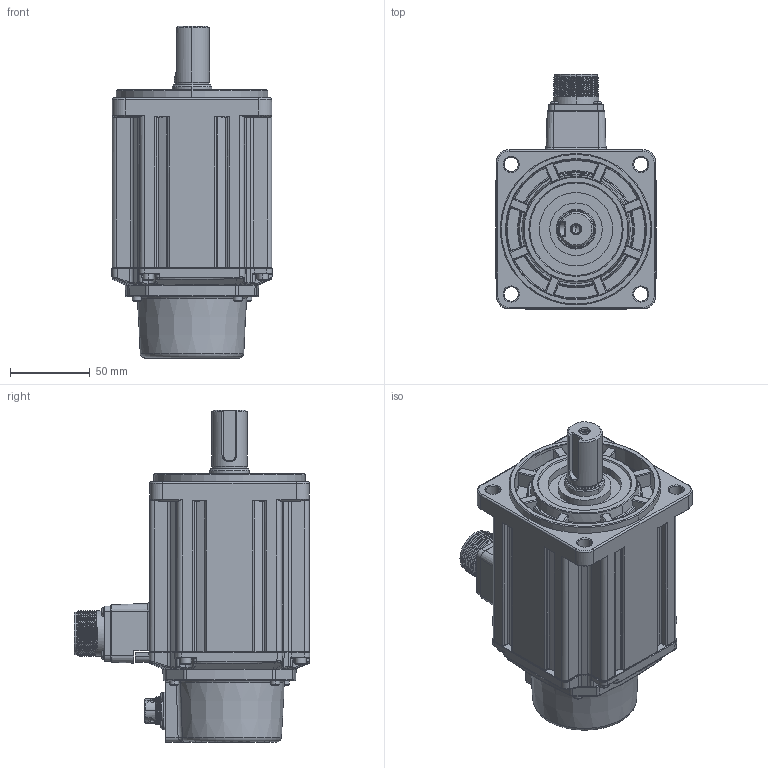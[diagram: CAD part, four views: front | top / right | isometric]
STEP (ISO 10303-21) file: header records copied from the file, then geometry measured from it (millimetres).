
FILE_DESCRIPTION((''),'2;1');
FILE_NAME('ECM-B3M-XB1015RS1_20241017_ASM','2024-12-27T20:18:18',('HUICHUN.CHU'),(''),'CREO PARAMETRIC BY PTC INC, 2020454','CREO PARAMETRIC BY PTC INC, 2020454','');
FILE_SCHEMA(('CONFIG_CONTROL_DESIGN','SHAPE_APPEARANCE_LAYERS_GROUPS'));
Products named in the file (2): _ECM-B3M-XB1015RS1_20241017; ECM-B3M-XB1015RS1_20241017_ASM
Assembly tree (1 placements, depth 2):
  ECM-B3M-XB1015RS1_20241017_ASM
    _ECM-B3M-XB1015RS1_20241017
Bounding box: 100.74 x 147.77 x 208.3 mm (x, y, z)
Surface area: 162125.8 mm2
Topology: 10 solids, 25 shells, 4265 faces, 11930 edges, 7707 vertices
Faces by surface type: plane 2335, cylinder 994, cone 458, torus 161, bspline 160, sphere 82, extrusion 75
Entity records: 180105 total; most frequent: CARTESIAN_POINT 40109, ORIENTED_EDGE 23010, DIRECTION 21458, EDGE_CURVE 11848, PRESENTATION_STYLE_ASSIGNMENT 9537, STYLED_ITEM 8919, CURVE_STYLE 8725, VERTEX_POINT 7705
